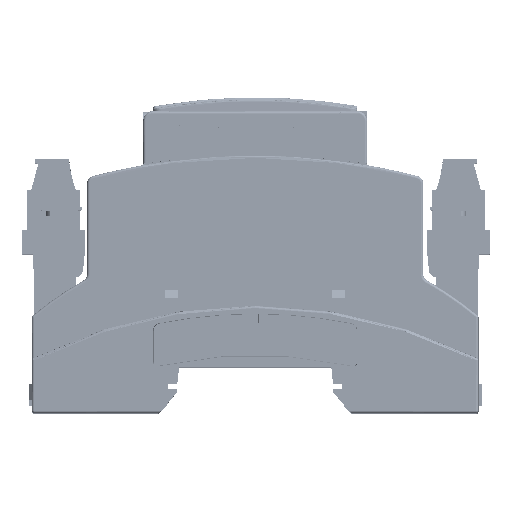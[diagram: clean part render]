
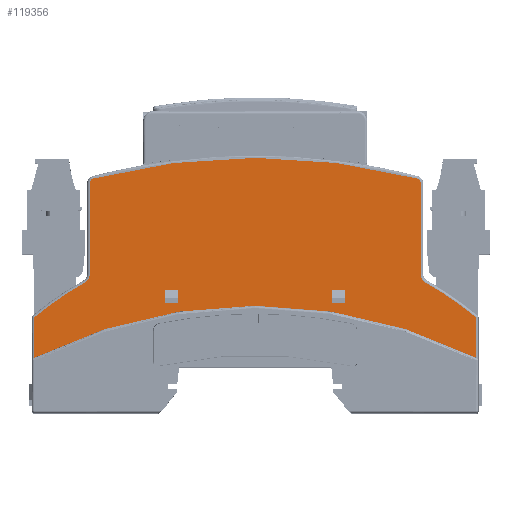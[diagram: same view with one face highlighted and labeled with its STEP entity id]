
A CAD part, top view. The second image highlights one B-rep face of the part: STEP entity #119356.
In plain terms, the highlighted planar face has unit normal (0, 0, 1).
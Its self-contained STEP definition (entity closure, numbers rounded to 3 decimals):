
#4987=FACE_BOUND('',#13623,.T.);
#4988=FACE_BOUND('',#13624,.T.);
#7270=FACE_OUTER_BOUND('',#13622,.T.);
#13622=EDGE_LOOP('',(#80828,#80829,#80830,#80831,#80832,#80833,#80834,#80835,
#80836,#80837,#80838,#80839));
#13623=EDGE_LOOP('',(#80840,#80841,#80842,#80843));
#13624=EDGE_LOOP('',(#80844,#80845,#80846,#80847));
#22228=CIRCLE('',#129447,129.2);
#22229=CIRCLE('',#129448,1.);
#22230=CIRCLE('',#129449,2.);
#22231=CIRCLE('',#129450,69.5);
#22232=CIRCLE('',#129451,99.5);
#22233=CIRCLE('',#129452,69.5);
#22234=CIRCLE('',#129453,2.);
#22235=CIRCLE('',#129454,1.);
#25149=LINE('',#173304,#38929);
#25156=LINE('',#173319,#38936);
#25163=LINE('',#173338,#38943);
#25164=LINE('',#173344,#38944);
#25165=LINE('',#173348,#38945);
#25166=LINE('',#173354,#38946);
#25167=LINE('',#173356,#38947);
#25168=LINE('',#173357,#38948);
#25169=LINE('',#173360,#38949);
#25170=LINE('',#173362,#38950);
#25171=LINE('',#173364,#38951);
#25172=LINE('',#173365,#38952);
#38929=VECTOR('',#139527,1.);
#38936=VECTOR('',#139538,1.);
#38943=VECTOR('',#139553,1.);
#38944=VECTOR('',#139558,1.);
#38945=VECTOR('',#139561,1.);
#38946=VECTOR('',#139566,1.);
#38947=VECTOR('',#139569,1.);
#38948=VECTOR('',#139570,1.);
#38949=VECTOR('',#139571,1.);
#38950=VECTOR('',#139572,1.);
#38951=VECTOR('',#139573,1.);
#38952=VECTOR('',#139574,1.);
#52718=VERTEX_POINT('',#173302);
#52719=VERTEX_POINT('',#173303);
#52724=VERTEX_POINT('',#173317);
#52725=VERTEX_POINT('',#173318);
#52730=VERTEX_POINT('',#173332);
#52731=VERTEX_POINT('',#173333);
#52732=VERTEX_POINT('',#173335);
#52733=VERTEX_POINT('',#173337);
#52734=VERTEX_POINT('',#173339);
#52735=VERTEX_POINT('',#173341);
#52736=VERTEX_POINT('',#173343);
#52737=VERTEX_POINT('',#173345);
#52738=VERTEX_POINT('',#173347);
#52739=VERTEX_POINT('',#173349);
#52740=VERTEX_POINT('',#173351);
#52741=VERTEX_POINT('',#173353);
#52742=VERTEX_POINT('',#173358);
#52743=VERTEX_POINT('',#173359);
#52744=VERTEX_POINT('',#173361);
#52745=VERTEX_POINT('',#173363);
#63851=EDGE_CURVE('',#52718,#52719,#25149,.T.);
#63858=EDGE_CURVE('',#52724,#52725,#25156,.T.);
#63865=EDGE_CURVE('',#52730,#52731,#22228,.T.);
#63866=EDGE_CURVE('',#52730,#52732,#22229,.T.);
#63867=EDGE_CURVE('',#52732,#52733,#25163,.T.);
#63868=EDGE_CURVE('',#52734,#52733,#22230,.T.);
#63869=EDGE_CURVE('',#52734,#52735,#22231,.T.);
#63870=EDGE_CURVE('',#52735,#52736,#25164,.T.);
#63871=EDGE_CURVE('',#52737,#52736,#22232,.T.);
#63872=EDGE_CURVE('',#52738,#52737,#25165,.T.);
#63873=EDGE_CURVE('',#52739,#52738,#22233,.T.);
#63874=EDGE_CURVE('',#52739,#52740,#22234,.T.);
#63875=EDGE_CURVE('',#52741,#52740,#25166,.T.);
#63876=EDGE_CURVE('',#52741,#52731,#22235,.T.);
#63877=EDGE_CURVE('',#52719,#52724,#25167,.T.);
#63878=EDGE_CURVE('',#52718,#52725,#25168,.T.);
#63879=EDGE_CURVE('',#52742,#52743,#25169,.T.);
#63880=EDGE_CURVE('',#52744,#52742,#25170,.T.);
#63881=EDGE_CURVE('',#52745,#52744,#25171,.T.);
#63882=EDGE_CURVE('',#52743,#52745,#25172,.T.);
#80828=ORIENTED_EDGE('',*,*,#63865,.F.);
#80829=ORIENTED_EDGE('',*,*,#63866,.T.);
#80830=ORIENTED_EDGE('',*,*,#63867,.T.);
#80831=ORIENTED_EDGE('',*,*,#63868,.F.);
#80832=ORIENTED_EDGE('',*,*,#63869,.T.);
#80833=ORIENTED_EDGE('',*,*,#63870,.T.);
#80834=ORIENTED_EDGE('',*,*,#63871,.F.);
#80835=ORIENTED_EDGE('',*,*,#63872,.F.);
#80836=ORIENTED_EDGE('',*,*,#63873,.F.);
#80837=ORIENTED_EDGE('',*,*,#63874,.T.);
#80838=ORIENTED_EDGE('',*,*,#63875,.F.);
#80839=ORIENTED_EDGE('',*,*,#63876,.T.);
#80840=ORIENTED_EDGE('',*,*,#63877,.T.);
#80841=ORIENTED_EDGE('',*,*,#63858,.T.);
#80842=ORIENTED_EDGE('',*,*,#63878,.F.);
#80843=ORIENTED_EDGE('',*,*,#63851,.T.);
#80844=ORIENTED_EDGE('',*,*,#63879,.F.);
#80845=ORIENTED_EDGE('',*,*,#63880,.F.);
#80846=ORIENTED_EDGE('',*,*,#63881,.F.);
#80847=ORIENTED_EDGE('',*,*,#63882,.F.);
#114630=PLANE('',#129446);
#119356=ADVANCED_FACE('',(#7270,#4987,#4988),#114630,.F.);
#129446=AXIS2_PLACEMENT_3D('',#173331,#139547,#139548);
#129447=AXIS2_PLACEMENT_3D('',#173334,#139549,#139550);
#129448=AXIS2_PLACEMENT_3D('',#173336,#139551,#139552);
#129449=AXIS2_PLACEMENT_3D('',#173340,#139554,#139555);
#129450=AXIS2_PLACEMENT_3D('',#173342,#139556,#139557);
#129451=AXIS2_PLACEMENT_3D('',#173346,#139559,#139560);
#129452=AXIS2_PLACEMENT_3D('',#173350,#139562,#139563);
#129453=AXIS2_PLACEMENT_3D('',#173352,#139564,#139565);
#129454=AXIS2_PLACEMENT_3D('',#173355,#139567,#139568);
#139527=DIRECTION('',(1.,0.,0.));
#139538=DIRECTION('',(-1.,0.,0.));
#139547=DIRECTION('center_axis',(0.,0.,
-1.));
#139548=DIRECTION('ref_axis',(1.,0.,0.));
#139549=DIRECTION('center_axis',(0.,0.,
-1.));
#139550=DIRECTION('ref_axis',(-1.,0.,0.));
#139551=DIRECTION('center_axis',(0.,0.,
1.));
#139552=DIRECTION('ref_axis',(1.,0.,0.));
#139553=DIRECTION('',(0.,1.,0.));
#139554=DIRECTION('center_axis',(0.,0.,
1.));
#139555=DIRECTION('ref_axis',(0.,-1.,0.));
#139556=DIRECTION('center_axis',(0.,0.,
1.));
#139557=DIRECTION('ref_axis',(0.,-1.,0.));
#139558=DIRECTION('',(0.,1.,0.));
#139559=DIRECTION('center_axis',(0.,0.,
1.));
#139560=DIRECTION('ref_axis',(-1.,0.,0.));
#139561=DIRECTION('',(0.,1.,0.));
#139562=DIRECTION('center_axis',(0.,0.,
-1.));
#139563=DIRECTION('ref_axis',(0.,1.,0.));
#139564=DIRECTION('center_axis',(0.,0.,
-1.));
#139565=DIRECTION('ref_axis',(0.,1.,0.));
#139566=DIRECTION('',(0.,1.,0.));
#139567=DIRECTION('center_axis',(0.,0.,
1.));
#139568=DIRECTION('ref_axis',(1.,0.,0.));
#139569=DIRECTION('',(0.,-1.,0.));
#139570=DIRECTION('',(0.,-1.,0.));
#139571=DIRECTION('',(-1.,0.,0.));
#139572=DIRECTION('',(0.,1.,0.));
#139573=DIRECTION('',(1.,0.,0.));
#139574=DIRECTION('',(0.,-1.,0.));
#173302=CARTESIAN_POINT('',(-23.75,-18.5,-0.1));
#173303=CARTESIAN_POINT('',(-21.15,-18.5,-0.1));
#173304=CARTESIAN_POINT('',(0.,-18.5,-0.1));
#173317=CARTESIAN_POINT('',(-21.15,-21.1,-0.1));
#173318=CARTESIAN_POINT('',(-23.75,-21.1,-0.1));
#173319=CARTESIAN_POINT('',(0.,-21.1,-0.1));
#173331=CARTESIAN_POINT('Origin',(-23.996,-40.289,-0.1));
#173332=CARTESIAN_POINT('',(26.852,-43.445,-0.1));
#173333=CARTESIAN_POINT('',(-38.152,-43.445,-0.1));
#173334=CARTESIAN_POINT('Origin',(-5.65,81.6,-0.1));
#173335=CARTESIAN_POINT('',(27.6,-42.477,-0.1));
#173336=CARTESIAN_POINT('Origin',(26.6,-42.477,-0.1));
#173337=CARTESIAN_POINT('',(27.6,-24.257,-0.1));
#173338=CARTESIAN_POINT('',(27.6,0.,-0.1));
#173339=CARTESIAN_POINT('',(28.614,-22.517,-0.1));
#173340=CARTESIAN_POINT('Origin',(29.6,-24.257,-0.1));
#173341=CARTESIAN_POINT('',(38.7,-15.56,-0.1));
#173342=CARTESIAN_POINT('Origin',(-5.65,37.95,-0.1));
#173343=CARTESIAN_POINT('',(38.7,-7.469,-0.1));
#173344=CARTESIAN_POINT('',(38.7,0.,-0.1));
#173345=CARTESIAN_POINT('',(-50.,-7.469,-0.1));
#173346=CARTESIAN_POINT('Origin',(-5.65,81.6,-0.1));
#173347=CARTESIAN_POINT('',(-50.,-15.56,-0.1));
#173348=CARTESIAN_POINT('',(-50.,0.,-0.1));
#173349=CARTESIAN_POINT('',(-39.914,-22.517,-0.1));
#173350=CARTESIAN_POINT('Origin',(-5.65,37.95,-0.1));
#173351=CARTESIAN_POINT('',(-38.9,-24.257,-0.1));
#173352=CARTESIAN_POINT('Origin',(-40.9,-24.257,-0.1));
#173353=CARTESIAN_POINT('',(-38.9,-42.477,-0.1));
#173354=CARTESIAN_POINT('',(-38.9,0.,-0.1));
#173355=CARTESIAN_POINT('Origin',(-37.9,-42.477,-0.1));
#173356=CARTESIAN_POINT('',(-21.15,0.,-0.1));
#173357=CARTESIAN_POINT('',(-23.75,0.,-0.1));
#173358=CARTESIAN_POINT('',(12.45,-18.5,-0.1));
#173359=CARTESIAN_POINT('',(9.85,-18.5,-0.1));
#173360=CARTESIAN_POINT('',(0.,-18.5,-0.1));
#173361=CARTESIAN_POINT('',(12.45,-21.1,-0.1));
#173362=CARTESIAN_POINT('',(12.45,0.,-0.1));
#173363=CARTESIAN_POINT('',(9.85,-21.1,-0.1));
#173364=CARTESIAN_POINT('',(0.,-21.1,-0.1));
#173365=CARTESIAN_POINT('',(9.85,0.,-0.1));
